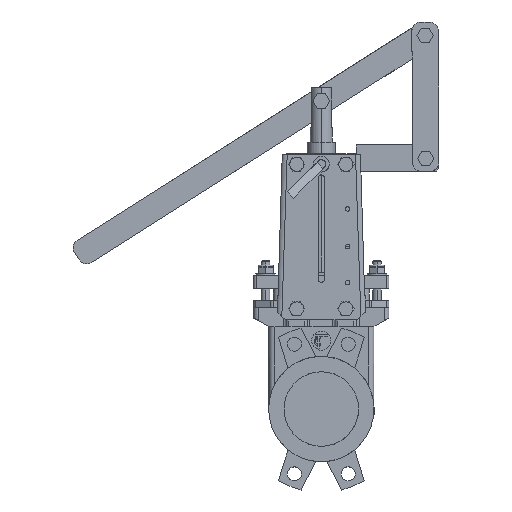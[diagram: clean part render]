
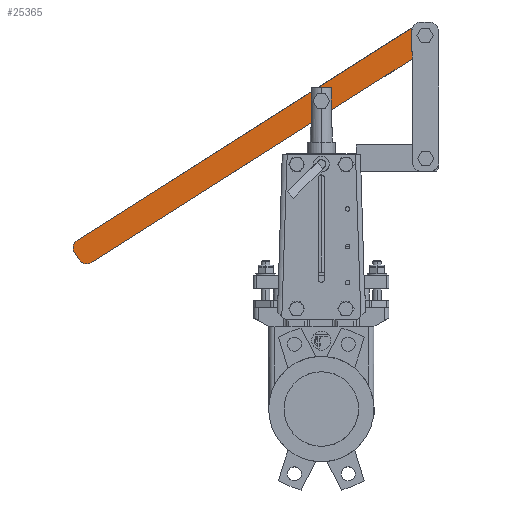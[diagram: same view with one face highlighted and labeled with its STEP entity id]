
A CAD part, top view. The second image highlights one B-rep face of the part: STEP entity #25365.
In plain terms, the highlighted planar face has unit normal (0, 0, 1).
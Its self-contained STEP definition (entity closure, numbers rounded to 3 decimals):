
#1193 = VERTEX_POINT ( 'NONE', #15663 ) ;
#1194 = VERTEX_POINT ( 'NONE', #15664 ) ;
#1197 = VERTEX_POINT ( 'NONE', #15667 ) ;
#1920 = ORIENTED_EDGE ( 'NONE', *, *, #18344, .F. ) ;
#1922 = ORIENTED_EDGE ( 'NONE', *, *, #26644, .F. ) ;
#1924 = ORIENTED_EDGE ( 'NONE', *, *, #26645, .T. ) ;
#1926 = ORIENTED_EDGE ( 'NONE', *, *, #26646, .T. ) ;
#1928 = ORIENTED_EDGE ( 'NONE', *, *, #26647, .T. ) ;
#1930 = ORIENTED_EDGE ( 'NONE', *, *, #26638, .T. ) ;
#1932 = ORIENTED_EDGE ( 'NONE', *, *, #18386, .T. ) ;
#1934 = ORIENTED_EDGE ( 'NONE', *, *, #26648, .T. ) ;
#1936 = ORIENTED_EDGE ( 'NONE', *, *, #26649, .T. ) ;
#1938 = ORIENTED_EDGE ( 'NONE', *, *, #26650, .T. ) ;
#1940 = ORIENTED_EDGE ( 'NONE', *, *, #18369, .T. ) ;
#5887 = VERTEX_POINT ( 'NONE', #16196 ) ;
#5905 = VERTEX_POINT ( 'NONE', #19611 ) ;
#6751 = CARTESIAN_POINT ( 'NONE',  ( 0., 351., 5. ) ) ;
#6752 = DIRECTION ( 'NONE',  ( 0., 0., 1. ) ) ;
#6753 = DIRECTION ( 'NONE',  ( 1., 0., 0. ) ) ;
#6786 = CARTESIAN_POINT ( 'NONE',  ( -272.889, 183.798, 5. ) ) ;
#6787 = DIRECTION ( 'NONE',  ( 0., 0., 1. ) ) ;
#6788 = DIRECTION ( 'NONE',  ( -1., 0., 0. ) ) ;
#6812 = CARTESIAN_POINT ( 'NONE',  ( 113.189, 430.97, 5. ) ) ;
#6813 = DIRECTION ( 'NONE',  ( 0., 0., -1. ) ) ;
#6814 = DIRECTION ( 'NONE',  ( -1., 0., 0. ) ) ;
#10145 = CIRCLE ( 'NONE', #19472, 10. ) ;
#13393 = VERTEX_POINT ( 'NONE', #20049 ) ;
#13396 = VERTEX_POINT ( 'NONE', #20052 ) ;
#13399 = VERTEX_POINT ( 'NONE', #20054 ) ;
#13400 = VERTEX_POINT ( 'NONE', #20059 ) ;
#13402 = VERTEX_POINT ( 'NONE', #20056 ) ;
#13404 = VERTEX_POINT ( 'NONE', #20062 ) ;
#15663 = CARTESIAN_POINT ( 'NONE',  ( -262.175, 166.91, 5. ) ) ;
#15664 = CARTESIAN_POINT ( 'NONE',  ( -275.977, 169.997, 5. ) ) ;
#15667 = CARTESIAN_POINT ( 'NONE',  ( -278.246, 192.243, 5. ) ) ;
#16196 = CARTESIAN_POINT ( 'NONE',  ( 103.369, 398.814, 5. ) ) ;
#18073 = CARTESIAN_POINT ( 'NONE',  ( -286.691, 186.886, 5. ) ) ;
#18082 = FACE_OUTER_BOUND ( 'NONE', #25871, .T. ) ;
#18089 = FACE_BOUND ( 'NONE', #25866, .T. ) ;
#18092 = PLANE ( 'NONE',  #18831 ) ;
#18095 = DIRECTION ( 'NONE',  ( 0., 0., -1. ) ) ;
#18097 = DIRECTION ( 'NONE',  ( -1., 0., 0. ) ) ;
#18344 = EDGE_CURVE ( 'NONE', #13399, #13393, #27544, .T. ) ;
#18369 = EDGE_CURVE ( 'NONE', #13404, #13396, #27715, .T. ) ;
#18386 = EDGE_CURVE ( 'NONE', #13402, #13400, #27651, .T. ) ;
#18831 = AXIS2_PLACEMENT_3D ( 'NONE', #18073, #18095, #18097 ) ;
#19449 = VECTOR ( 'NONE', #22590, 1000. ) ;
#19460 = CIRCLE ( 'NONE', #19464, 5.5 ) ;
#19462 = VECTOR ( 'NONE', #22635, 1000. ) ;
#19464 = AXIS2_PLACEMENT_3D ( 'NONE', #22628, #22630, #22632 ) ;
#19466 = CIRCLE ( 'NONE', #19470, 10. ) ;
#19468 = VECTOR ( 'NONE', #22648, 1000. ) ;
#19470 = AXIS2_PLACEMENT_3D ( 'NONE', #22642, #22644, #22646 ) ;
#19472 = AXIS2_PLACEMENT_3D ( 'NONE', #22655, #22657, #22659 ) ;
#19611 = CARTESIAN_POINT ( 'NONE',  ( 103.904, 434.681, 5. ) ) ;
#20049 = CARTESIAN_POINT ( 'NONE',  ( 5.5, 351., 5. ) ) ;
#20052 = CARTESIAN_POINT ( 'NONE',  ( -281.334, 178.441, 5. ) ) ;
#20054 = CARTESIAN_POINT ( 'NONE',  ( -5.5, 351., 5. ) ) ;
#20056 = CARTESIAN_POINT ( 'NONE',  ( 103.19, 430.914, 5. ) ) ;
#20059 = CARTESIAN_POINT ( 'NONE',  ( 103.189, 430.97, 5. ) ) ;
#20062 = CARTESIAN_POINT ( 'NONE',  ( -282.889, 183.798, 5. ) ) ;
#22566 = CARTESIAN_POINT ( 'NONE',  ( -270.62, 161.553, 5. ) ) ;
#22568 = LINE ( 'NONE', #22566, #19462 ) ;
#22586 = LINE ( 'NONE', #22589, #19449 ) ;
#22589 = CARTESIAN_POINT ( 'NONE',  ( 103.134, 440.914, 5. ) ) ;
#22590 = DIRECTION ( 'NONE',  ( -0.006, 1., 0. ) ) ;
#22624 = LINE ( 'NONE', #22626, #19468 ) ;
#22626 = CARTESIAN_POINT ( 'NONE',  ( 134.697, 418.689, 5. ) ) ;
#22628 = CARTESIAN_POINT ( 'NONE',  ( 0., 351., 5. ) ) ;
#22630 = DIRECTION ( 'NONE',  ( 0., 0., 1. ) ) ;
#22632 = DIRECTION ( 'NONE',  ( 1., 0., 0. ) ) ;
#22635 = DIRECTION ( 'NONE',  ( 0.536, -0.844, 0. ) ) ;
#22638 = LINE ( 'NONE', #22640, #22794 ) ;
#22640 = CARTESIAN_POINT ( 'NONE',  ( -286.691, 186.886, 5. ) ) ;
#22642 = CARTESIAN_POINT ( 'NONE',  ( -267.532, 175.354, 5. ) ) ;
#22644 = DIRECTION ( 'NONE',  ( 0., 0., 1. ) ) ;
#22646 = DIRECTION ( 'NONE',  ( -1., 0., 0. ) ) ;
#22648 = DIRECTION ( 'NONE',  ( 0.844, 0.536, 0. ) ) ;
#22655 = CARTESIAN_POINT ( 'NONE',  ( 113.189, 430.97, 5. ) ) ;
#22657 = DIRECTION ( 'NONE',  ( 0., 0., -1. ) ) ;
#22659 = DIRECTION ( 'NONE',  ( -1., 0., 0. ) ) ;
#22662 = DIRECTION ( 'NONE',  ( -0.844, -0.536, 0. ) ) ;
#22668 = CARTESIAN_POINT ( 'NONE',  ( -272.889, 183.798, 5. ) ) ;
#22670 = DIRECTION ( 'NONE',  ( 0., 0., 1. ) ) ;
#22671 = DIRECTION ( 'NONE',  ( -1., 0., 0. ) ) ;
#22794 = VECTOR ( 'NONE', #22662, 1000. ) ;
#22796 = CIRCLE ( 'NONE', #22797, 10. ) ;
#22797 = AXIS2_PLACEMENT_3D ( 'NONE', #22668, #22670, #22671 ) ;
#25365 = ADVANCED_FACE ( 'NONE', ( #18089, #18082 ), #18092, .F. ) ;
#25866 = EDGE_LOOP ( 'NONE', ( #1920, #1922 ) ) ;
#25871 = EDGE_LOOP ( 'NONE', ( #1924, #1926, #1928, #1930, #1932, #1934, #1936, #1938, #1940 ) ) ;
#26638 = EDGE_CURVE ( 'NONE', #5887, #13402, #22586, .T. ) ;
#26644 = EDGE_CURVE ( 'NONE', #13393, #13399, #19460, .T. ) ;
#26645 = EDGE_CURVE ( 'NONE', #13396, #1194, #22568, .T. ) ;
#26646 = EDGE_CURVE ( 'NONE', #1194, #1193, #19466, .T. ) ;
#26647 = EDGE_CURVE ( 'NONE', #1193, #5887, #22624, .T. ) ;
#26648 = EDGE_CURVE ( 'NONE', #13400, #5905, #10145, .T. ) ;
#26649 = EDGE_CURVE ( 'NONE', #5905, #1197, #22638, .T. ) ;
#26650 = EDGE_CURVE ( 'NONE', #1197, #13404, #22796, .T. ) ;
#27512 = AXIS2_PLACEMENT_3D ( 'NONE', #6751, #6752, #6753 ) ;
#27544 = CIRCLE ( 'NONE', #27512, 5.5 ) ;
#27647 = AXIS2_PLACEMENT_3D ( 'NONE', #6812, #6813, #6814 ) ;
#27651 = CIRCLE ( 'NONE', #27647, 10. ) ;
#27707 = AXIS2_PLACEMENT_3D ( 'NONE', #6786, #6787, #6788 ) ;
#27715 = CIRCLE ( 'NONE', #27707, 10. ) ;
